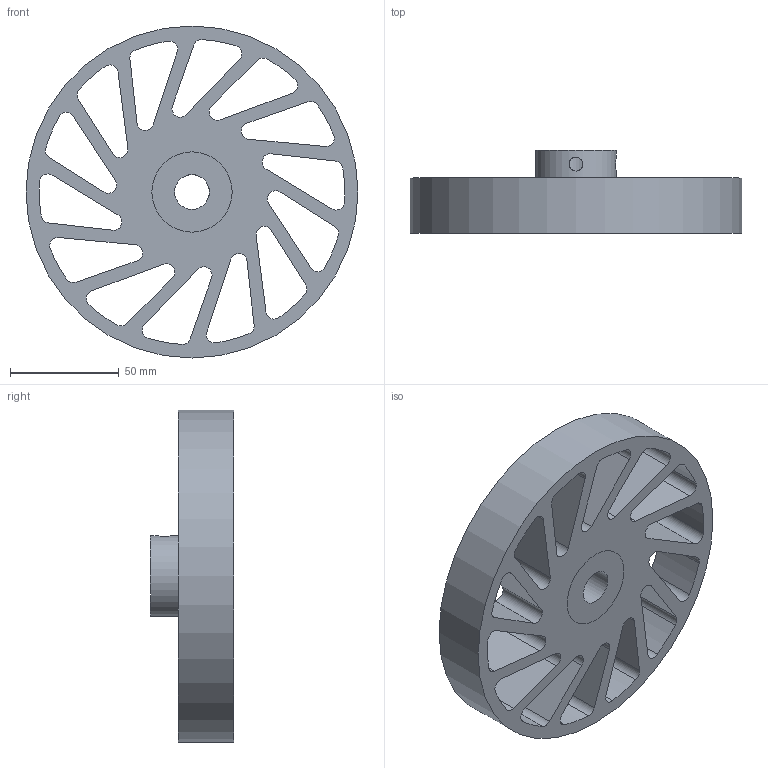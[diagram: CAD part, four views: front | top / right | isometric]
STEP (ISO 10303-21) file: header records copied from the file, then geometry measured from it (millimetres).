
FILE_DESCRIPTION(/* description */ (''),/* implementation_level */ '2;1');
FILE_NAME(/* name */ 'NCW-560-XXX-YYY.stp',/* time_stamp */ '2023-02-02T15:35:12-06:00',/* author */ ('AG'),/* organization */ ('Meridian Laboratory'),/* preprocessor_version */ 'ST-DEVELOPER v18.1',/* originating_system */ 'Autodesk Inventor 2022',/* authorisation */ '');
FILE_SCHEMA (('AUTOMOTIVE_DESIGN { 1 0 10303 214 3 1 1 }'));
Length unit declared in the file: inch
Products named in the file (1): NCW-540
Bounding box: 152.4 x 38.1 x 152.4 mm (x, y, z)
Volume: 265096.6 mm3; surface area: 78669.4 mm2
Topology: 2 solids, 2 shells, 94 faces, 276 edges, 186 vertices
Faces by surface type: cylinder 62, plane 32
Full cylindrical faces by diameter (mm): 6.35 x2, 15.9 x1, 36.83 x2, 152.4 x1
Entity records: 3518 total; most frequent: CARTESIAN_POINT 697, DIRECTION 576, ORIENTED_EDGE 552, EDGE_CURVE 276, AXIS2_PLACEMENT_3D 215, VERTEX_POINT 186, LINE 146, VECTOR 146
